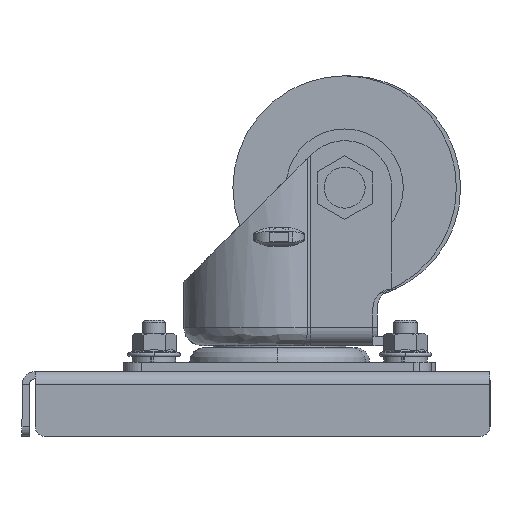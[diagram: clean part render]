
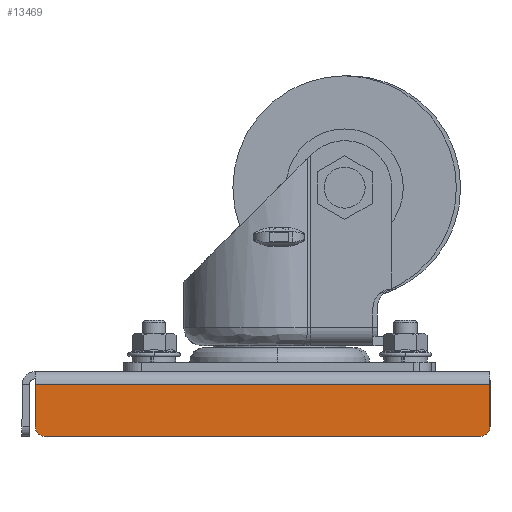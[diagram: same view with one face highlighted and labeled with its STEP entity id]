
A CAD part, left-side view. The second image highlights one B-rep face of the part: STEP entity #13469.
In plain terms, the highlighted planar face has unit normal (-1, 0, 0).
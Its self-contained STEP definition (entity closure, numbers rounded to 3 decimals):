
#71 = LINE ( 'NONE', #10944, #3559 ) ;
#689 = VERTEX_POINT ( 'NONE', #14396 ) ;
#890 = DIRECTION ( 'NONE',  ( 0., 0., -1. ) ) ;
#976 = EDGE_CURVE ( 'NONE', #16115, #5529, #3964, .T. ) ;
#1188 = CARTESIAN_POINT ( 'NONE',  ( -56.57, 155., 22. ) ) ;
#1743 = DIRECTION ( 'NONE',  ( 0., 0., 1. ) ) ;
#1998 = CARTESIAN_POINT ( 'NONE',  ( -56.57, 155., 4.496 ) ) ;
#2075 = VECTOR ( 'NONE', #7607, 1000. ) ;
#2658 = CARTESIAN_POINT ( 'NONE',  ( -56.57, 155., 18.825 ) ) ;
#2921 = CARTESIAN_POINT ( 'NONE',  ( -56.57, 151.825, 18.825 ) ) ;
#3559 = VECTOR ( 'NONE', #12204, 1000. ) ;
#3578 = CIRCLE ( 'NONE', #6059, 3.175 ) ;
#3964 = LINE ( 'NONE', #14616, #10889 ) ;
#4262 = DIRECTION ( 'NONE',  ( 0., 0., 1. ) ) ;
#4458 = EDGE_CURVE ( 'NONE', #8781, #12532, #16196, .T. ) ;
#4659 = ORIENTED_EDGE ( 'NONE', *, *, #8064, .T. ) ;
#5529 = VERTEX_POINT ( 'NONE', #1998 ) ;
#5557 = VERTEX_POINT ( 'NONE', #9880 ) ;
#5812 = ORIENTED_EDGE ( 'NONE', *, *, #10928, .F. ) ;
#6059 = AXIS2_PLACEMENT_3D ( 'NONE', #2921, #12069, #4262 ) ;
#6246 = DIRECTION ( 'NONE',  ( -1., 0., 0. ) ) ;
#6372 = ORIENTED_EDGE ( 'NONE', *, *, #4458, .T. ) ;
#6684 = ORIENTED_EDGE ( 'NONE', *, *, #16010, .F. ) ;
#6816 = DIRECTION ( 'NONE',  ( 0., 0., -1. ) ) ;
#7607 = DIRECTION ( 'NONE',  ( 0., -1., 0. ) ) ;
#8064 = EDGE_CURVE ( 'NONE', #5557, #16115, #3578, .T. ) ;
#8781 = VERTEX_POINT ( 'NONE', #16084 ) ;
#9527 = CARTESIAN_POINT ( 'NONE',  ( -56.57, 155., 22. ) ) ;
#9587 = DIRECTION ( 'NONE',  ( -1., 0., 0. ) ) ;
#9758 = AXIS2_PLACEMENT_3D ( 'NONE', #9527, #9587, #1743 ) ;
#9805 = EDGE_CURVE ( 'NONE', #5529, #689, #71, .T. ) ;
#9880 = CARTESIAN_POINT ( 'NONE',  ( -56.57, 151.825, 22. ) ) ;
#9953 = AXIS2_PLACEMENT_3D ( 'NONE', #14056, #6246, #15355 ) ;
#10431 = CARTESIAN_POINT ( 'NONE',  ( -56.57, 3.175, 22. ) ) ;
#10889 = VECTOR ( 'NONE', #6816, 1000. ) ;
#10928 = EDGE_CURVE ( 'NONE', #8781, #689, #12523, .T. ) ;
#10944 = CARTESIAN_POINT ( 'NONE',  ( -56.57, 155., 4.496 ) ) ;
#11019 = ORIENTED_EDGE ( 'NONE', *, *, #976, .T. ) ;
#12069 = DIRECTION ( 'NONE',  ( -1., 0., 0. ) ) ;
#12074 = LINE ( 'NONE', #1188, #2075 ) ;
#12098 = VECTOR ( 'NONE', #890, 1000. ) ;
#12204 = DIRECTION ( 'NONE',  ( 0., -1., 0. ) ) ;
#12523 = LINE ( 'NONE', #16527, #12098 ) ;
#12532 = VERTEX_POINT ( 'NONE', #10431 ) ;
#13469 = ADVANCED_FACE ( 'NONE', ( #15027 ), #14763, .T. ) ;
#14056 = CARTESIAN_POINT ( 'NONE',  ( -56.57, 3.175, 18.825 ) ) ;
#14396 = CARTESIAN_POINT ( 'NONE',  ( -56.57, 0., 4.496 ) ) ;
#14409 = EDGE_LOOP ( 'NONE', ( #5812, #6372, #6684, #4659, #11019, #15681 ) ) ;
#14616 = CARTESIAN_POINT ( 'NONE',  ( -56.57, 155., 22. ) ) ;
#14763 = PLANE ( 'NONE',  #9758 ) ;
#15027 = FACE_OUTER_BOUND ( 'NONE', #14409, .T. ) ;
#15355 = DIRECTION ( 'NONE',  ( 0., 0., 1. ) ) ;
#15681 = ORIENTED_EDGE ( 'NONE', *, *, #9805, .T. ) ;
#16010 = EDGE_CURVE ( 'NONE', #5557, #12532, #12074, .T. ) ;
#16084 = CARTESIAN_POINT ( 'NONE',  ( -56.57, 0., 18.825 ) ) ;
#16115 = VERTEX_POINT ( 'NONE', #2658 ) ;
#16196 = CIRCLE ( 'NONE', #9953, 3.175 ) ;
#16527 = CARTESIAN_POINT ( 'NONE',  ( -56.57, 0., 22. ) ) ;
